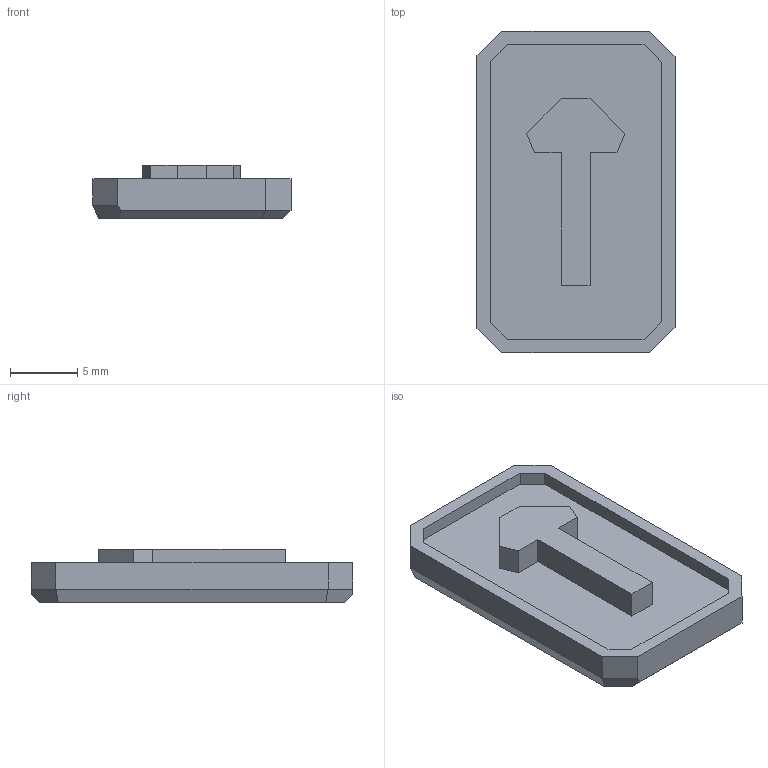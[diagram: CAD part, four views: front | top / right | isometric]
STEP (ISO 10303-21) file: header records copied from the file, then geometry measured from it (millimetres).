
FILE_DESCRIPTION(/* description */ (''),/* implementation_level */ '2;1');
FILE_NAME(/* name */ 'C:/Users/Ezeki/Desktop/xxe/1 Name Plate v5.step',/* time_stamp */ '2021-06-15T22:52:32+08:00',/* author */ (''),/* organization */ (''),/* preprocessor_version */ 'ST-DEVELOPER v18.1',/* originating_system */ 'Autodesk Translation Framework v10.9.0.1377',/* authorisation */ '');
FILE_SCHEMA (('AUTOMOTIVE_DESIGN { 1 0 10303 214 3 1 1 }'));
Length unit declared in the file: millimetre
Products named in the file (1): 1 Name Plate
Bounding box: 14.67 x 23.85 x 4 mm (x, y, z)
Volume: 826.8 mm3; surface area: 1106 mm2
Topology: 2 solids, 2 shells, 39 faces, 96 edges, 62 vertices
Faces by surface type: plane 39
Entity records: 1161 total; most frequent: CARTESIAN_POINT 198, ORIENTED_EDGE 192, DIRECTION 176, LINE 96, VECTOR 96, EDGE_CURVE 96, VERTEX_POINT 62, EDGE_LOOP 40
